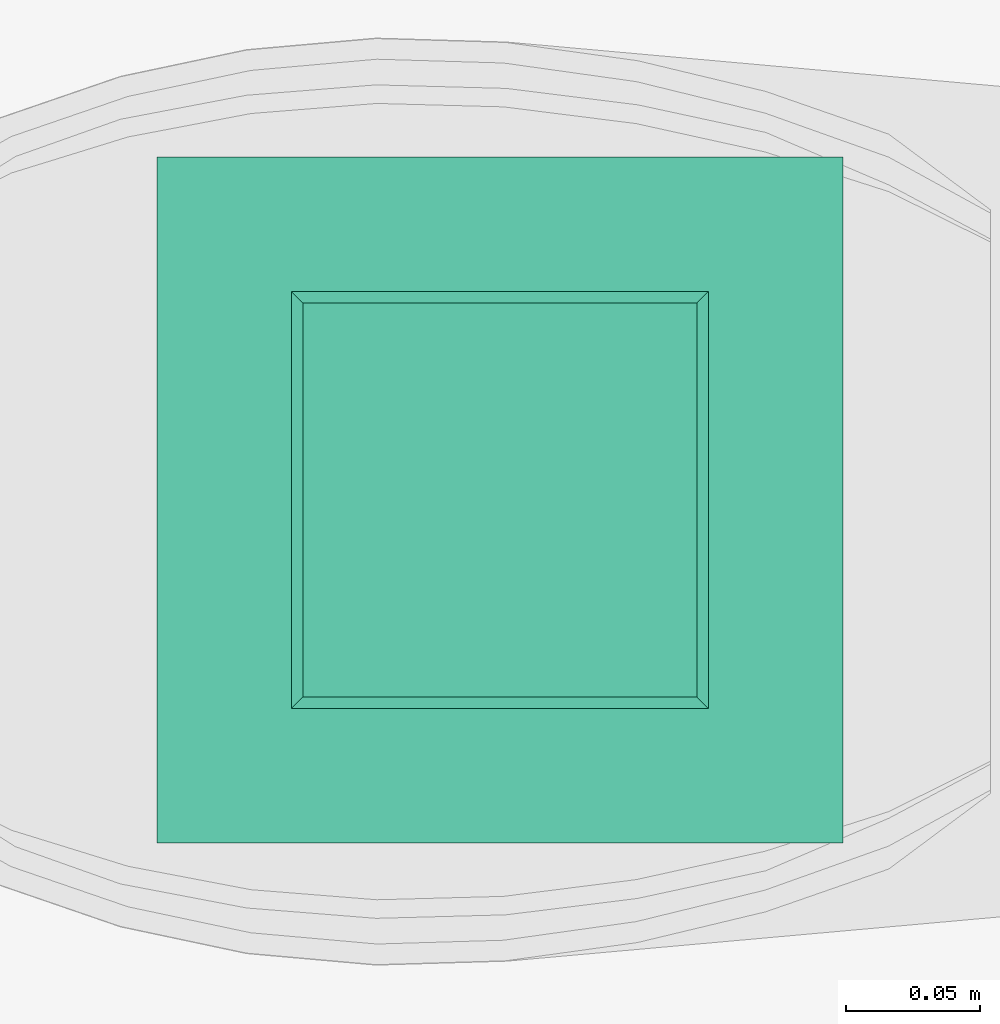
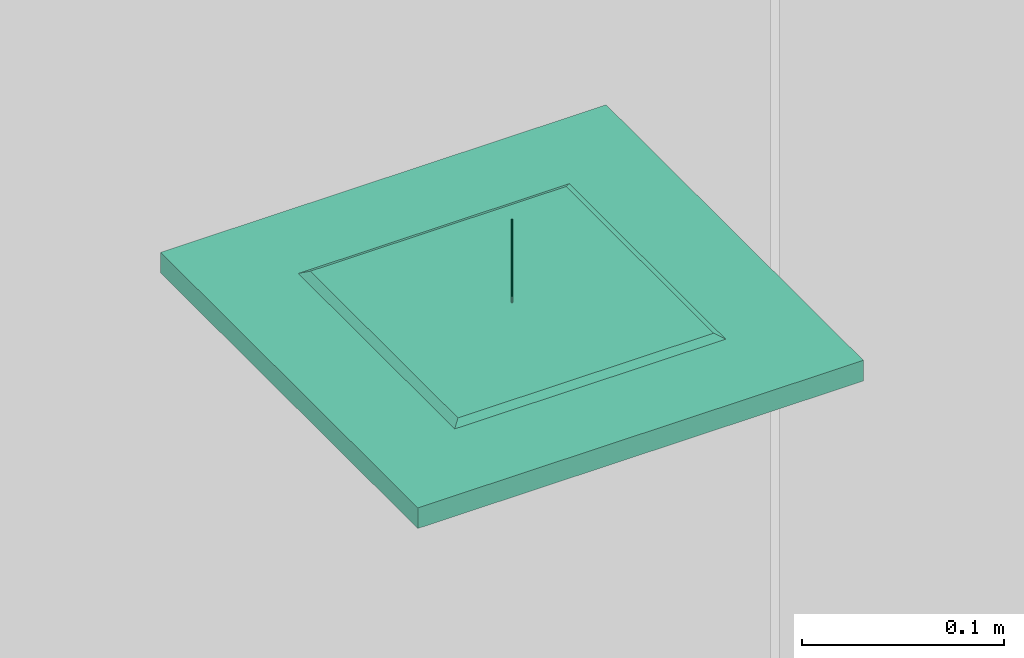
# One storey, part 18 of 24: 1 flow terminal.
"""IFC2X3 building model written with IfcOpenShell, lengths in inches."""

from ifc_helpers import new_model, entity, si_unit, converted_unit, derived_unit, money_unit, direction, frame, origin_with_axes, place, context, subcontext, project, spatial, open_shell, faceted_brep, surface_model, type_object, element, save


model = new_model("IFC2X3")

# Units and contexts
model_context = context("Model", 3, precision=0.000393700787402, world=origin_with_axes(), true_north=direction((0.0, 1.0)))
body_context = subcontext(model_context, "Body", "Model", "MODEL_VIEW")
ifc_project = project(units=[converted_unit("LENGTHUNIT", "INCH", entity("IfcPositiveLengthMeasure", 0.0254), si_unit("LENGTHUNIT", "METRE"), dimensions=[1, 0, 0, 0, 0, 0, 0]), converted_unit("AREAUNIT", "SQUARE_FOOT", entity("IfcPositiveLengthMeasure", 0.09290304), si_unit("AREAUNIT", "SQUARE_METRE"), dimensions=[2, 0, 0, 0, 0, 0, 0]), si_unit("PLANEANGLEUNIT", "RADIAN"), si_unit("SOLIDANGLEUNIT", "STERADIAN"), money_unit("USD"), converted_unit("TIMEUNIT", "Year", entity("IfcTimeMeasure", 31556926.0), si_unit("TIMEUNIT", "SECOND"), dimensions=[0, 0, 1, 0, 0, 0, 0]), si_unit("MASSUNIT", "GRAM", prefix="KILO"), si_unit("THERMODYNAMICTEMPERATUREUNIT", "DEGREE_CELSIUS"), si_unit("LUMINOUSINTENSITYUNIT", "LUMEN"), si_unit("ENERGYUNIT", "JOULE", prefix="MEGA"), derived_unit("THERMALCONDUCTANCEUNIT", [(si_unit("POWERUNIT", "WATT"), 1), (si_unit("LENGTHUNIT", "METRE"), -1), (si_unit("THERMODYNAMICTEMPERATUREUNIT", "KELVIN"), -1)]), derived_unit("SPECIFICHEATCAPACITYUNIT", [(si_unit("ENERGYUNIT", "JOULE"), 1), (si_unit("MASSUNIT", "GRAM", prefix="KILO"), -1), (si_unit("THERMODYNAMICTEMPERATUREUNIT", "KELVIN"), -1)]), derived_unit("MASSDENSITYUNIT", [(si_unit("MASSUNIT", "GRAM", prefix="KILO"), 1), (si_unit("VOLUMEUNIT", "CUBIC_METRE"), -1)])], contexts=[model_context])

# Site, building, storey
site_placement = place(None, origin_with_axes())
site = spatial("IfcSite", under=ifc_project, at=site_placement, Name="Site", CompositionType="ELEMENT")
building_placement = place(site_placement, origin_with_axes())
building = spatial("IfcBuilding", under=site, at=building_placement, Name="Building", CompositionType="ELEMENT")
storey_placement = place(building_placement, origin_with_axes())
storey = spatial("IfcBuildingStorey", under=building, at=storey_placement, Name="First Floor", CompositionType="ELEMENT", Elevation=0.0)

# Flow terminal
sanitary_terminal_type = type_object("IfcSanitaryTerminalType", Name="Rect Louver Face Ceiling Diffuser 25", PredefinedType="NOTDEFINED")
flow_terminal_placement = place(storey_placement, frame((410.966251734, 521.430794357, 100.25), z_axis=(0.0, 0.0, 1.0), x_axis=(0.0, -1.0, 0.0)))
element("IfcFlowTerminal", 1, at=flow_terminal_placement, inside=storey, type_object=sanitary_terminal_type, Name="FU - 027", context=body_context, shape_type="SurfaceModel", body=[
    faceted_brep([(5.02362204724, 5.02362204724, 0.0), (-5.02362204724, 5.02362204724, 0.0), (-5.02362204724, 5.02362204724, 0.492125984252), (5.02362204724, 5.02362204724, 0.492125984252), (5.02362204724, -5.02362204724, 0.0), (-5.02362204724, -5.02362204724, 0.0), (3.05511811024, 3.05511811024, 0.0), (-3.05511811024, 3.05511811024, 0.0), (-3.05511811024, -3.05511811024, 0.0), (3.05511811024, -3.05511811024, 0.0), (-5.02362204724, -5.02362204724, 0.492125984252), (5.02362204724, -5.02362204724, 0.492125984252), (3.05511811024, 3.05511811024, 0.492125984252), (3.05511811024, -3.05511811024, 0.492125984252), (-3.05511811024, -3.05511811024, 0.492125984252), (-3.05511811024, 3.05511811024, 0.492125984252)], [[[0, 1, 2, 3]], [[0, 4, 5, 1], [6, 7, 8, 9]], [[1, 5, 10, 2]], [[3, 2, 10, 11], [12, 13, 14, 15]], [[4, 0, 3, 11]], [[5, 4, 11, 10]], [[7, 6, 12, 15]], [[8, 7, 15, 14]], [[9, 8, 14, 13]], [[6, 9, 13, 12]]]),
    surface_model("IfcShellBasedSurfaceModel", [(3.05511811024, 3.05511811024, 0.492125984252), (-3.05511811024, 3.05511811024, 0.492125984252), (-2.88287401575, 2.88287401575, 0.590551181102), (2.88287401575, 2.88287401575, 0.590551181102), (-3.05511811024, -3.05511811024, 0.492125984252), (-2.88287401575, -2.88287401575, 0.590551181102), (2.88287401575, -2.88287401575, 0.590551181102), (3.05511811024, -3.05511811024, 0.492125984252)], [open_shell([[[0, 1, 2, 3]], [[1, 4, 5, 2]], [[3, 2, 5, 6]], [[7, 0, 3, 6]], [[4, 7, 6, 5]]])]),
    faceted_brep([(0.611023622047, 0.611023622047, 0.0), (-0.611023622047, 0.611023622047, 0.0), (0.0, 0.0, 0.448103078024), (0.611023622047, -0.611023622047, 0.0), (-0.611023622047, -0.611023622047, 0.0)], [[[0, 1, 2]], [[0, 3, 4, 1]], [[1, 4, 2]], [[3, 0, 2]], [[4, 3, 2]]]),
    surface_model("IfcShellBasedSurfaceModel", [(1.22204724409, 1.22204724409, 0.0), (-1.22204724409, 1.22204724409, 0.0), (-0.729133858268, 0.729133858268, 0.448103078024), (0.729133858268, 0.729133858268, 0.448103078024), (-1.22204724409, -1.22204724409, 0.0), (-0.729133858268, -0.729133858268, 0.448103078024), (1.22204724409, -1.22204724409, 0.0), (0.729133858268, -0.729133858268, 0.448103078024)], [open_shell([[[0, 1, 2, 3]], [[1, 4, 5, 2]], [[6, 0, 3, 7]], [[4, 6, 7, 5]]])]),
    surface_model("IfcShellBasedSurfaceModel", [(1.83307086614, 1.83307086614, 0.0), (-1.83307086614, 1.83307086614, 0.0), (-1.34015748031, 1.34015748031, 0.448103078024), (1.34015748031, 1.34015748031, 0.448103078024), (-1.83307086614, -1.83307086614, 0.0), (-1.34015748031, -1.34015748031, 0.448103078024), (1.83307086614, -1.83307086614, 0.0), (1.34015748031, -1.34015748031, 0.448103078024)], [open_shell([[[0, 1, 2, 3]], [[1, 4, 5, 2]], [[6, 0, 3, 7]], [[4, 6, 7, 5]]])]),
    surface_model("IfcShellBasedSurfaceModel", [(2.44409448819, 2.44409448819, 0.0), (-2.44409448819, 2.44409448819, 0.0), (-1.95118110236, 1.95118110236, 0.448103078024), (1.95118110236, 1.95118110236, 0.448103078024), (-2.44409448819, -2.44409448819, 0.0), (-1.95118110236, -1.95118110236, 0.448103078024), (2.44409448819, -2.44409448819, 0.0), (1.95118110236, -1.95118110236, 0.448103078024)], [open_shell([[[0, 1, 2, 3]], [[1, 4, 5, 2]], [[6, 0, 3, 7]], [[4, 6, 7, 5]]])]),
    surface_model("IfcShellBasedSurfaceModel", [(0.0, -0.0196850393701, 0.590551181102), (0.00509486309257, -0.0190142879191, 0.590551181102), (0.00509486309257, -0.0190142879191, 2.55905511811), (0.0, -0.0196850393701, 2.55905511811), (0.00984251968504, -0.017047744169, 0.590551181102), (0.00984251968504, -0.017047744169, 2.55905511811), (-0.00509486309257, -0.0190142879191, 0.590551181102), (-0.00509486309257, -0.0190142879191, 2.55905511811), (0.0139194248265, -0.0139194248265, 0.590551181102), (0.0139194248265, -0.0139194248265, 2.55905511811), (-0.00984251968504, -0.017047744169, 0.590551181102), (-0.00984251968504, -0.017047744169, 2.55905511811), (0.017047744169, -0.00984251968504, 0.590551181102), (0.017047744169, -0.00984251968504, 2.55905511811), (-0.0139194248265, -0.0139194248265, 0.590551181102), (-0.0139194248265, -0.0139194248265, 2.55905511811), (0.0190142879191, -0.00509486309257, 0.590551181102), (0.0190142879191, -0.00509486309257, 2.55905511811), (-0.017047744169, -0.00984251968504, 0.590551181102), (-0.017047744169, -0.00984251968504, 2.55905511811), (0.0196850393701, 0.0, 0.590551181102), (0.0196850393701, 0.0, 2.55905511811), (-0.0190142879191, -0.00509486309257, 0.590551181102), (-0.0190142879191, -0.00509486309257, 2.55905511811), (0.0190142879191, 0.00509486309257, 0.590551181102), (0.0190142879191, 0.00509486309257, 2.55905511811), (-0.0196850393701, 0.0, 0.590551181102), (-0.0196850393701, 0.0, 2.55905511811), (0.017047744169, 0.00984251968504, 0.590551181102), (0.017047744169, 0.00984251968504, 2.55905511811), (-0.0190142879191, 0.00509486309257, 0.590551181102), (-0.0190142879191, 0.00509486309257, 2.55905511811), (0.0139194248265, 0.0139194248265, 0.590551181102), (0.0139194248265, 0.0139194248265, 2.55905511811), (-0.017047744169, 0.00984251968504, 0.590551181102), (-0.017047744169, 0.00984251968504, 2.55905511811), (0.00984251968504, 0.017047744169, 0.590551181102), (0.00984251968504, 0.017047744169, 2.55905511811), (-0.0139194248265, 0.0139194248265, 0.590551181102), (-0.0139194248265, 0.0139194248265, 2.55905511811), (0.00509486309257, 0.0190142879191, 0.590551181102), (0.00509486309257, 0.0190142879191, 2.55905511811), (-0.00984251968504, 0.017047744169, 0.590551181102), (-0.00984251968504, 0.017047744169, 2.55905511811), (0.0, 0.0196850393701, 0.590551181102), (0.0, 0.0196850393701, 2.55905511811), (-0.00509486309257, 0.0190142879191, 0.590551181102), (-0.00509486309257, 0.0190142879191, 2.55905511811)], [open_shell([[[0, 1, 2, 3]], [[1, 4, 5, 2]], [[6, 0, 3, 7]], [[4, 8, 9, 5]], [[10, 6, 7, 11]], [[8, 12, 13, 9]], [[14, 10, 11, 15]], [[12, 16, 17, 13]], [[18, 14, 15, 19]], [[16, 20, 21, 17]], [[22, 18, 19, 23]], [[20, 24, 25, 21]], [[26, 22, 23, 27]], [[24, 28, 29, 25]], [[30, 26, 27, 31]], [[28, 32, 33, 29]], [[34, 30, 31, 35]], [[32, 36, 37, 33]], [[38, 34, 35, 39]], [[36, 40, 41, 37]], [[42, 38, 39, 43]], [[40, 44, 45, 41]], [[46, 42, 43, 47]], [[44, 46, 47, 45]]])]),
])

save(model, "model.ifc")
